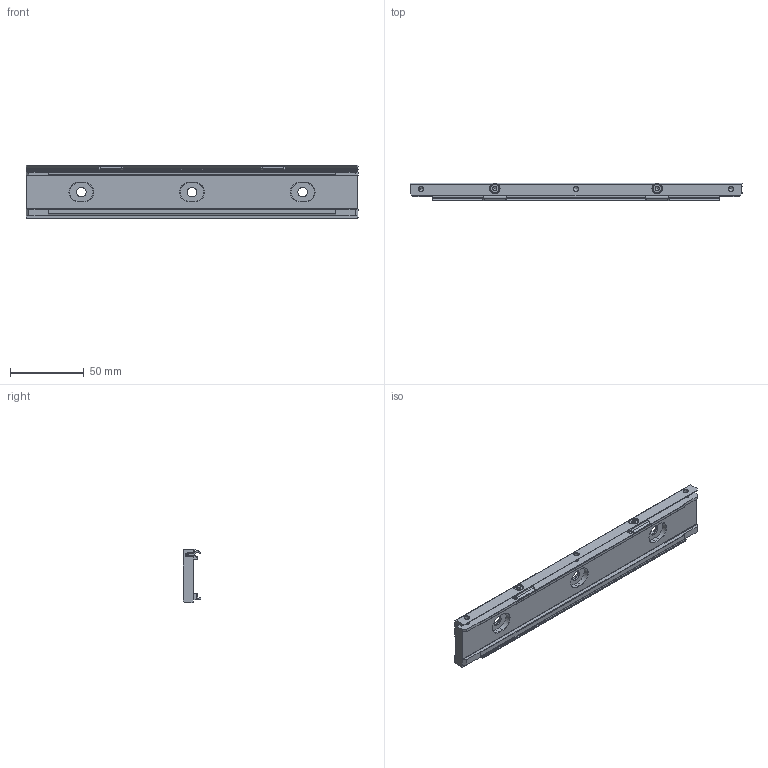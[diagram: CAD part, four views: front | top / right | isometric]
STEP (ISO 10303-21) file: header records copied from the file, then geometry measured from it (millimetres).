
FILE_DESCRIPTION(('Creo Elements/Direct Modeling STEP Export'),'2;1');
FILE_NAME('B3-120.stp','2020-10-30T11:32:02',(''),(''),'Creo Elements/Direct Modeling STEP processor for AP214 (Solid Model)','Creo Elements/Direct Modeling 19.0G 27-Nov-2017 (C) Parametric Technology GmbH','');
FILE_SCHEMA(('AUTOMOTIVE_DESIGN { 1 0 10303 214 1 1 1 1 }'));
Length unit declared in the file: millimetre
Products named in the file (2): PERFIL_SOPORTE_REGLA_SV3-120
Assembly tree (1 placements, depth 2):
  PERFIL_SOPORTE_REGLA_SV3-120
    PERFIL_SOPORTE_REGLA_SV3-120
Bounding box: 225 x 12.14 x 36.1 mm (x, y, z)
Volume: 55456.8 mm3; surface area: 29124.8 mm2
Topology: 1 solids, 1 shells, 458 faces, 1286 edges, 834 vertices
Faces by surface type: plane 224, cylinder 170, cone 48, bspline 8, torus 8
Entity records: 16508 total; most frequent: CARTESIAN_POINT 3494, ORIENTED_EDGE 2548, DIRECTION 2249, EDGE_CURVE 1274, VERTEX_POINT 834, AXIS2_PLACEMENT_3D 755, VECTOR 739, LINE 739
